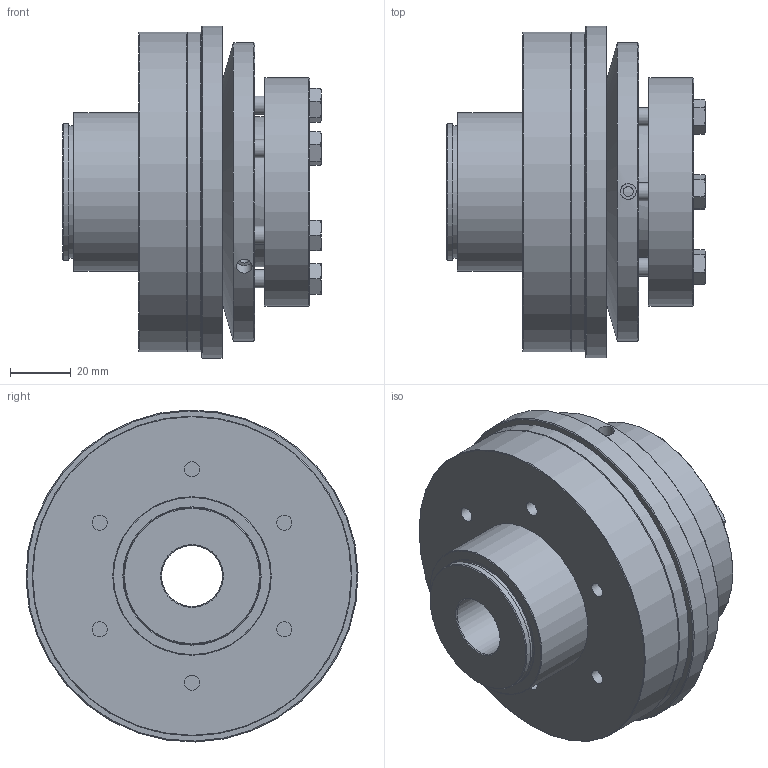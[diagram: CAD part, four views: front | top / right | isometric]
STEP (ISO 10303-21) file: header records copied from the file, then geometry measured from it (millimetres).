
FILE_DESCRIPTION( ( 'Unknown' ), '1' );
FILE_NAME( 'C:/Users/TWalzel/Documents/CAD-Daten/KBK-CA/200/KBK C-A-200.stp', 'Unknown', ( 'Unknown' ), ( 'Unknown' ), 'PSStep 16.0.42', 'Unknown', ' ' );
FILE_SCHEMA( ( 'AUTOMOTIVE_DESIGN { 1 0 10303 214 1 1 1 1 }' ) );
Length unit declared in the file: millimetre
Products named in the file (11): Druckring 200; Stellring 200; din_en_24017_m6x25_0; Druckring L-A-200; Assem1; Grundkörper C-A-200_1; Flansch-Gleitlager  CK-200
Assembly tree (15 placements, depth 3):
  Assem1
    Grundkörper C-A-200_1
    Flansch-Gleitlager  CK-200
    Stellring 200
      Stellring 200
    Druckring 200
      Druckring 200
    Druckring L-A-200
      Druckring L-A-200
    din_en_24017_m6x25_0  x6
      din_en_24017_m6x25_0
Bounding box: 85 x 108.98 x 108.98 mm (x, y, z)
Volume: 399088.8 mm3; surface area: 111083.9 mm2
Topology: 11 solids, 11 shells, 266 faces, 559 edges, 356 vertices
Faces by surface type: plane 117, cone 79, cylinder 62, torus 8
Full cylindrical faces by diameter (mm): 3.242 x3, 4.917 x18, 5.2 x6, 6 x6, 6.6 x6, 8.8 x6, 20 x1, 43.5 x1, 45 x3, 49.29 x1, 52 x1, 62 x1, 66 x2, 75 x1, 77 x1, 90 x1, 98 x1, 105 x2, 109 x1
Entity records: 5484 total; most frequent: CARTESIAN_POINT 1000, DIRECTION 704, ORIENTED_EDGE 440, AXIS2_PLACEMENT_3D 334, EDGE_LOOP 292, EDGE_CURVE 220, FACE_OUTER_BOUND 211, VERTEX_POINT 184
